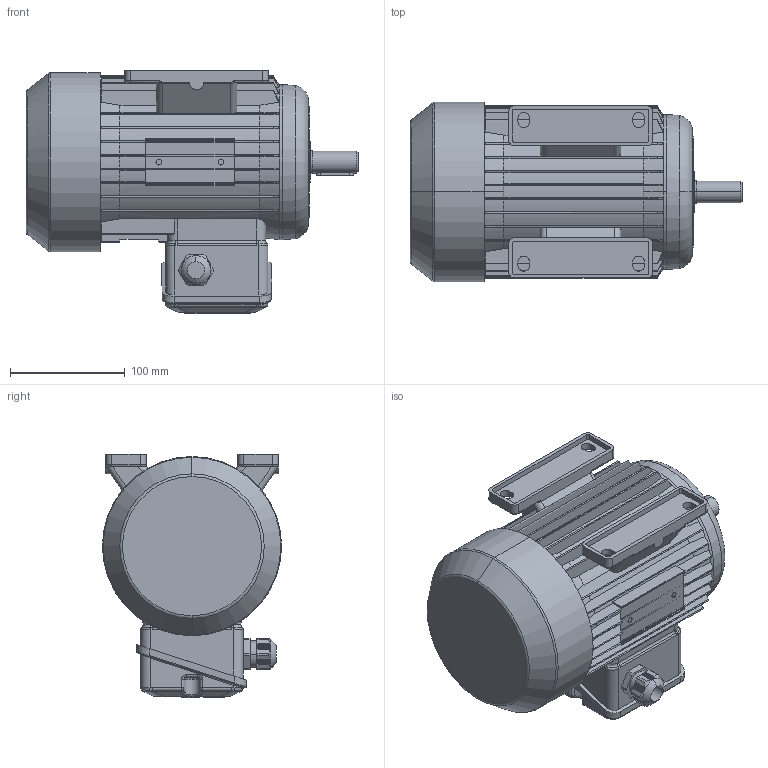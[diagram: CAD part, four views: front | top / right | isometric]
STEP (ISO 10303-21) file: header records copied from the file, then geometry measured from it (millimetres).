
FILE_DESCRIPTION (( 'STEP AP214' ), '1' );
FILE_NAME ('MAP80M2A IM1041.STEP', '2020-12-18T10:22:33', ( '' ), ( '' ), 'SwSTEP 2.0', 'SolidWorks 2018', '' );
FILE_SCHEMA (( 'AUTOMOTIVE_DESIGN' ));
Length unit declared in the file: millimetre
Products named in the file (1): MAP80M2A IM1041
Bounding box: 289 x 156 x 212 mm (x, y, z)
Volume: 4389804.5 mm3; surface area: 293692.7 mm2
Topology: 3 solids, 8 shells, 1227 faces, 3244 edges, 2059 vertices
Faces by surface type: plane 611, cylinder 310, bspline 180, torus 73, cone 50, sphere 3
Entity records: 48586 total; most frequent: CARTESIAN_POINT 20001, ORIENTED_EDGE 6474, DIRECTION 5293, EDGE_CURVE 3237, VERTEX_POINT 2059, AXIS2_PLACEMENT_3D 1802, LINE 1689, VECTOR 1689
